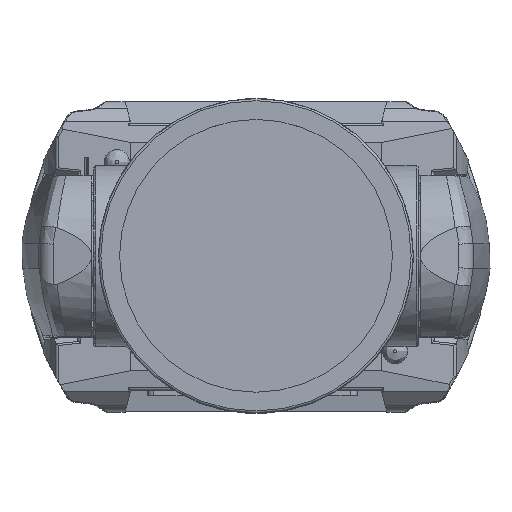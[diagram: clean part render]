
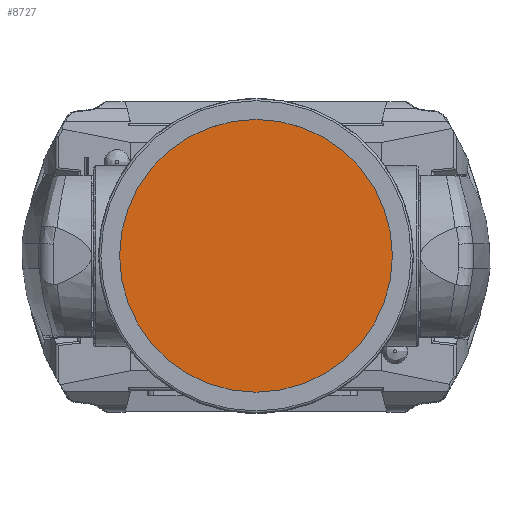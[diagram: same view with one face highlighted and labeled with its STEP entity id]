
A CAD part, top view. The second image highlights one B-rep face of the part: STEP entity #8727.
In plain terms, the highlighted planar face has unit normal (0, 0, 1).
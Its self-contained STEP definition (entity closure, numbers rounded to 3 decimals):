
#363=CIRCLE('',#9549,98.);
#2983=ORIENTED_EDGE('',*,*,#4706,.F.);
#4706=EDGE_CURVE('',#5704,#5704,#363,.T.);
#5704=VERTEX_POINT('',#18080);
#7401=EDGE_LOOP('',(#2983));
#7994=FACE_BOUND('',#7401,.T.);
#8316=PLANE('',#9548);
#8727=ADVANCED_FACE('',(#7994),#8316,.F.);
#9548=AXIS2_PLACEMENT_3D('',#18078,#11440,#11441);
#9549=AXIS2_PLACEMENT_3D('',#18079,#11442,#11443);
#11440=DIRECTION('',(0.,0.,-1.));
#11441=DIRECTION('',(-1.,0.,0.));
#11442=DIRECTION('',(0.,0.,-1.));
#11443=DIRECTION('',(0.,-1.,0.));
#18078=CARTESIAN_POINT('',(0.,0.,109.7));
#18079=CARTESIAN_POINT('',(0.,0.,109.7));
#18080=CARTESIAN_POINT('',(0.,-98.,109.7));
